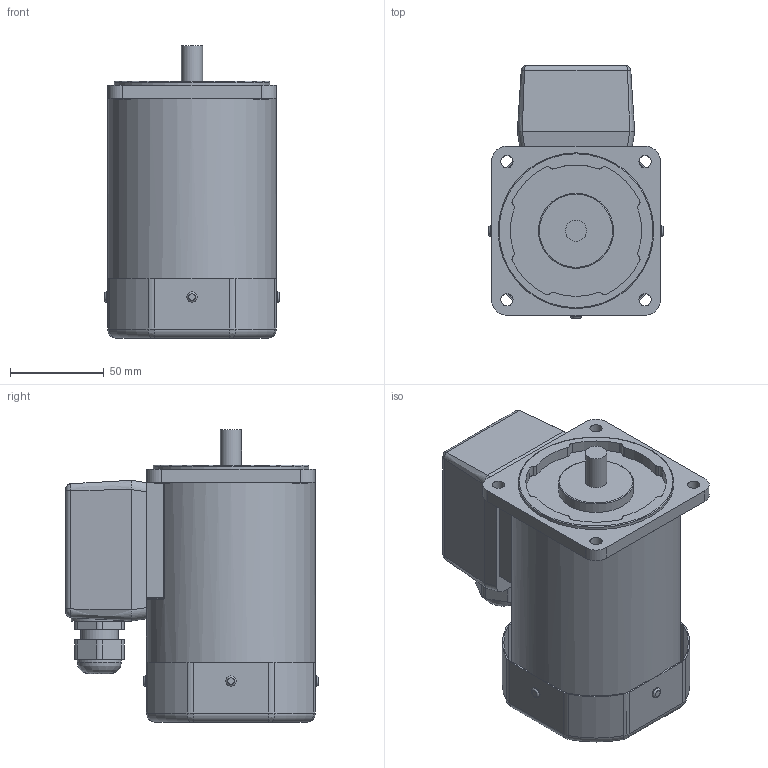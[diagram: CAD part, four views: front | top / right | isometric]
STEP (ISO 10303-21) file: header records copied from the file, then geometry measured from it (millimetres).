
FILE_DESCRIPTION((''),'2;1');
FILE_NAME('E:\2공장-도면\3D\표준형 3D(민규)\step file\K9IP120Fㅁ-T.stp','2014-11-13T09:57:25',('AHN'),(''),'Autodesk Inventor 2012','Autodesk Inventor 2012','');
FILE_SCHEMA(('CONFIG_CONTROL_DESIGN'));
Length unit declared in the file: millimetre
Products named in the file (3): K9IP120Fㅁ-T; K9IP90Fㅁ; TERMINAL BOX
Assembly tree (2 placements, depth 2):
  K9IP120Fㅁ-T
    K9IP90Fㅁ
    TERMINAL BOX
Bounding box: 93 x 134.5 x 156 mm (x, y, z)
Volume: 989946.5 mm3; surface area: 105131.1 mm2
Topology: 2 solids, 8 shells, 321 faces, 767 edges, 466 vertices
Faces by surface type: cylinder 151, plane 101, torus 48, bspline 21
Full cylindrical faces by diameter (mm): 5.5 x4, 6.5 x4, 8 x4, 11.3 x1, 20 x1, 23.5 x1, 40 x1, 83 x1, 90 x1
Entity records: 10455 total; most frequent: CARTESIAN_POINT 3009, DIRECTION 1574, ORIENTED_EDGE 1474, EDGE_CURVE 737, AXIS2_PLACEMENT_3D 616, VERTEX_POINT 463, EDGE_LOOP 394, VECTOR 342
